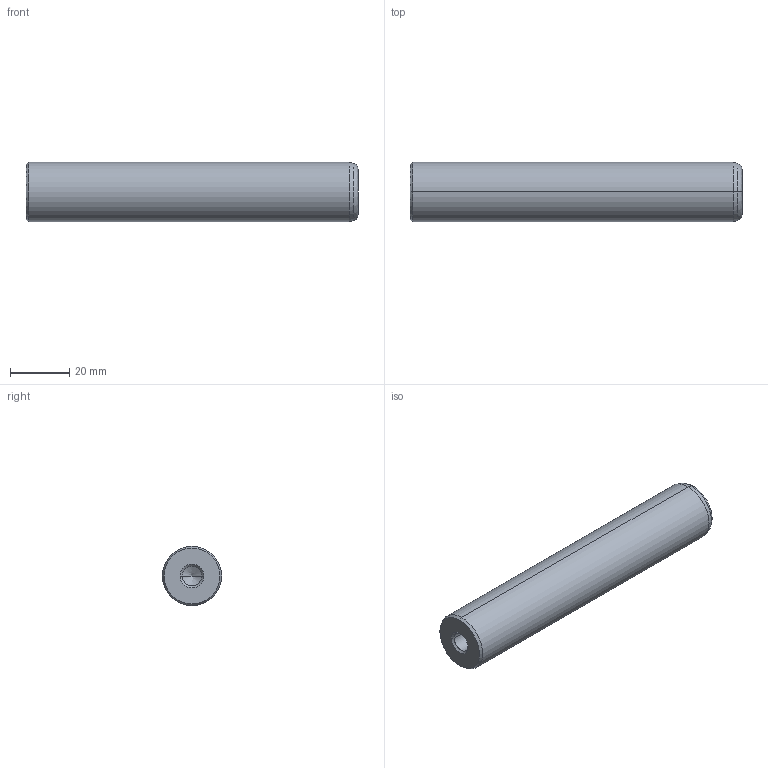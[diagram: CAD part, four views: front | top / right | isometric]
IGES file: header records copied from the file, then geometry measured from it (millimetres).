
Start section: START RECORD GO HERE.
Global section: file name: 720-20x112.igs; native system: DASSAULT SYSTEMES CATIA V5 R20 - www.3ds.com; preprocessor: CATIA Version 5 Release 20 ; author: Utente; organization: NB04-ASUS; date: 20210101.140220; units: millimetre
Bounding box: 112 x 20 x 20 mm (x, y, z)
Surface area: 8558.7 mm2 (no closed solid volume)
Topology: 0 solids, 0 shells, 22 faces, 120 edges, 116 vertices
Faces by surface type: revolution 20, plane 2
